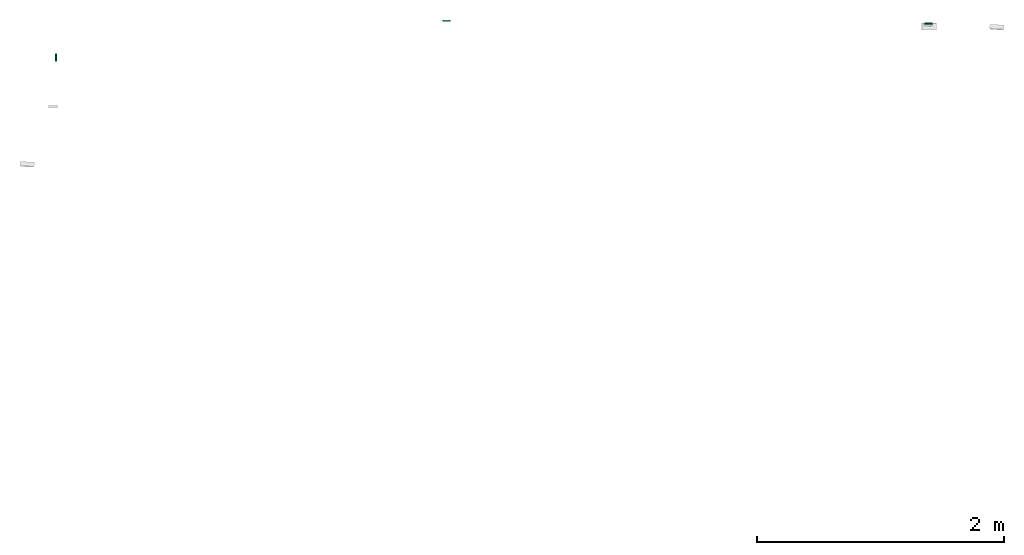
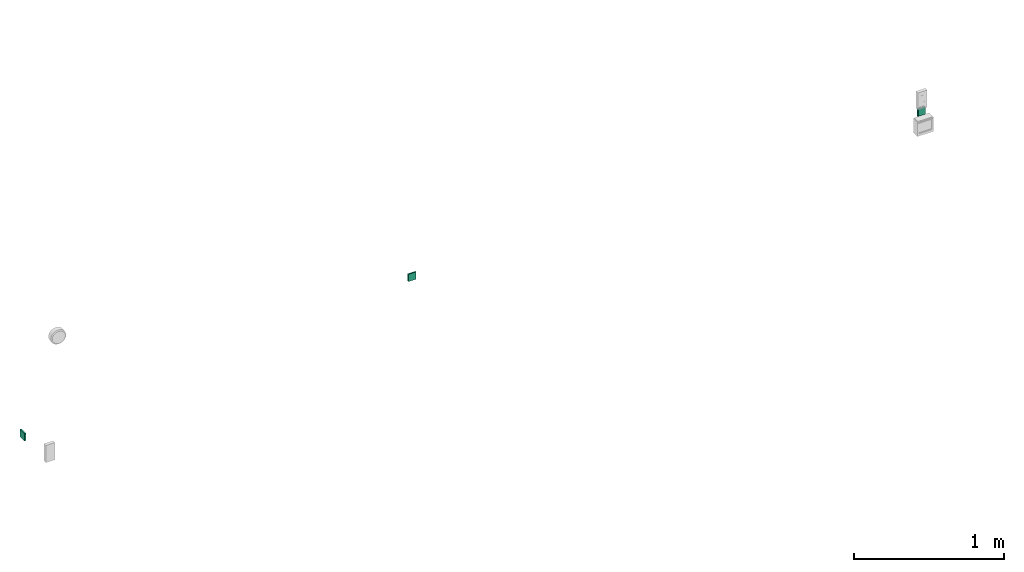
# One storey, part 2 of 3: 3 distribution control elements.
"""IFC2X3 building model written with IfcOpenShell, lengths in millimetres."""

from ifc_helpers import new_model, entity, si_unit, converted_unit, derived_unit, direction, frame, origin_with_axes, place, context, subcontext, project, spatial, open_shell, surface_model, source, transform, mapped, type_object, element, save


model = new_model("IFC2X3")

# Units and contexts
model_context = context("Model", 3, precision=0.01, world=frame((0.0, 4.29681676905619e-09, 0.0)), true_north=direction((4.01073788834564e-13, 1.0)))
plan_context = context("Plan", 3, precision=0.01, world=frame((0.0, 4.29681676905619e-09, 0.0)), true_north=direction((4.01073788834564e-13, 1.0)))
body_context = subcontext(model_context, "Body", "Model", "MODEL_VIEW")
ifc_project = project(units=[converted_unit("PLANEANGLEUNIT", "DEGREE", entity("IfcPositiveLengthMeasure", 0.0174532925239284), si_unit("PLANEANGLEUNIT", "RADIAN"), dimensions=[0, 0, 0, 0, 0, 0, 0]), si_unit("AREAUNIT", "SQUARE_METRE"), si_unit("LENGTHUNIT", "METRE", prefix="MILLI"), si_unit("MASSUNIT", "GRAM", prefix="KILO"), si_unit("POWERUNIT", "WATT"), si_unit("PRESSUREUNIT", "PASCAL"), si_unit("FORCEUNIT", "NEWTON", prefix="KILO"), si_unit("ELECTRICVOLTAGEUNIT", "VOLT"), si_unit("ELECTRICCURRENTUNIT", "AMPERE"), si_unit("THERMODYNAMICTEMPERATUREUNIT", "DEGREE_CELSIUS"), si_unit("TIMEUNIT", "SECOND"), si_unit("VOLUMEUNIT", "CUBIC_METRE"), derived_unit("LINEARVELOCITYUNIT", [(si_unit("LENGTHUNIT", "METRE"), 1), (si_unit("TIMEUNIT", "SECOND"), -1)]), derived_unit("VOLUMETRICFLOWRATEUNIT", [(si_unit("VOLUMEUNIT", "CUBIC_METRE"), 1), (si_unit("TIMEUNIT", "SECOND"), -1)]), derived_unit("THERMALTRANSMITTANCEUNIT", [(si_unit("POWERUNIT", "WATT"), 1), (si_unit("THERMODYNAMICTEMPERATUREUNIT", "KELVIN"), -1), (si_unit("AREAUNIT", "SQUARE_METRE"), -1)]), derived_unit("SOUNDPRESSUREUNIT", [(si_unit("PRESSUREUNIT", "PASCAL"), 1)])], contexts=[model_context, plan_context])

# Site, building, storey
site_placement = place(None, frame((0.0, -4.29681676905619e-09, 0.0), z_axis=(0.0, 0.0, 1.0), x_axis=(1.0, 0.0, 0.0)))
site = spatial("IfcSite", under=ifc_project, at=site_placement, Name="ENGM", CompositionType="ELEMENT")
building_placement = place(site_placement, frame((0.0, 4.29681676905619e-09, 0.0), z_axis=(0.0, 0.0, 1.0), x_axis=(1.0, 0.0, 0.0)))
building = spatial("IfcBuilding", under=site, at=building_placement, Name="TI", CompositionType="ELEMENT")
storey_placement = place(building_placement, frame((0.0, 0.0, 210900.0), z_axis=(0.0, 0.0, 1.0), x_axis=(1.0, 0.0, 0.0)))
storey = spatial("IfcBuildingStorey", under=building, at=storey_placement, Name="Nivå F", CompositionType="ELEMENT", Elevation=210900.0)

# Distribution control elements
alarm_type = type_object("IfcAlarmType", Name="Switch with one push button", PredefinedType="NOTDEFINED")
shared_shape = source(origin_with_axes(), body_context, "Body", "SurfaceModel", [
    surface_model("IfcShellBasedSurfaceModel", [(-30.0, 10.0, 30.0), (-30.0, 0.0, 30.0), (30.0, 0.0, 30.0), (30.0, 10.0, 30.0), (30.0, 10.0, -30.0), (30.0, 0.0, -30.0), (-30.0, 0.0, -30.0), (-30.0, 10.0, -30.0), (-26.0, 12.0, 26.0), (-26.0, 10.0, 26.0), (26.0, 12.0, 26.0), (26.0, 10.0, 26.0), (26.0, 12.0, -26.0), (26.0, 10.0, -26.0), (-26.0, 12.0, -26.0), (-26.0, 10.0, -26.0)], [open_shell([[[0, 1, 2]], [[2, 3, 0]], [[4, 5, 6]], [[6, 7, 4]], [[2, 1, 6]], [[6, 5, 2]], [[3, 2, 5]], [[5, 4, 3]], [[0, 3, 4]], [[4, 7, 0]], [[1, 0, 7]], [[7, 6, 1]], [[8, 9, 10]], [[11, 10, 9]], [[12, 13, 14]], [[15, 14, 13]], [[11, 9, 15]], [[15, 13, 11]], [[10, 11, 12]], [[13, 12, 11]], [[8, 10, 12]], [[12, 14, 8]], [[9, 8, 15]], [[14, 15, 8]]])]),
])
for number, where, z_axis, x_axis, name in (
    (1, (601668.30237, 699287.5, 887.5), (0.0, 0.0, 1.0), (1.0, 0.0, 0.0), "Switch with one push button"),
    (2, (605574.6778, 699275.27142, 877.5), (0.0, 0.0, 1.0), (-1.0, 0.0, 0.0), "Switch with one push button"),
    (3, (598497.43458, 698994.57234, 887.5), (0.0, 0.0, 1.0), (0.0, -1.0, 0.0), "Switch with one push button"),
):
    element("IfcDistributionControlElement", number, at=place(storey_placement, frame(where, z_axis=z_axis, x_axis=x_axis)), inside=storey, type_object=alarm_type, Name=name, context=body_context, shape_type="MappedRepresentation", body=[
        mapped(shared_shape, transform((0.0, 0.0, 0.0), scale=1.0)),
    ])

save(model, "model.ifc")
